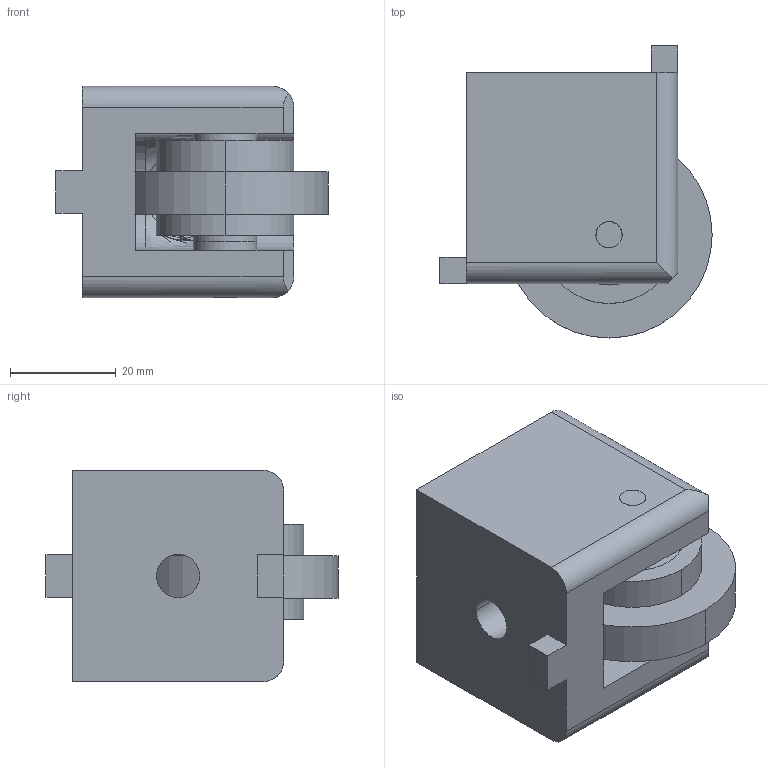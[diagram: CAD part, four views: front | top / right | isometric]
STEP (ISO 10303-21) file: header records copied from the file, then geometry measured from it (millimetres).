
FILE_DESCRIPTION (( 'STEP AP203' ), '1' );
FILE_NAME ('50380_VERSTZ4040ROL.STEP', '2018-08-13T10:11:35', ( '' ), ( '' ), 'SwSTEP 2.0', 'SolidWorks 2017', '' );
FILE_SCHEMA (( 'CONFIG_CONTROL_DESIGN' ));
Length unit declared in the file: millimetre
Products named in the file (6): 10536-01-0000-00; 10458-01-0000-00_M6Beilagscheibe; 50380_VERSTZ4040ROL; 50327-01-0000-00_Rollenkäfig; 10447_Lager; 10447_Rolle
Assembly tree (8 placements, depth 2):
  50380_VERSTZ4040ROL
    50327-01-0000-00_Rollenkäfig
    10447_Lager  x2
    10447_Rolle
    10536-01-0000-00
    10458-01-0000-00_M6Beilagscheibe  x3
Bounding box: 51.5 x 55.25 x 40 mm (x, y, z)
Volume: 52040.4 mm3; surface area: 21426.4 mm2
Topology: 6 solids, 20 shells, 180 faces, 417 edges, 240 vertices
Faces by surface type: cylinder 68, plane 50, bspline 38, torus 14, cone 10
Entity records: 4913 total; most frequent: CARTESIAN_POINT 1344, DIRECTION 641, ORIENTED_EDGE 566, EDGE_CURVE 283, AXIS2_PLACEMENT_3D 255, VERTEX_POINT 180, EDGE_LOOP 147, CIRCLE 135
